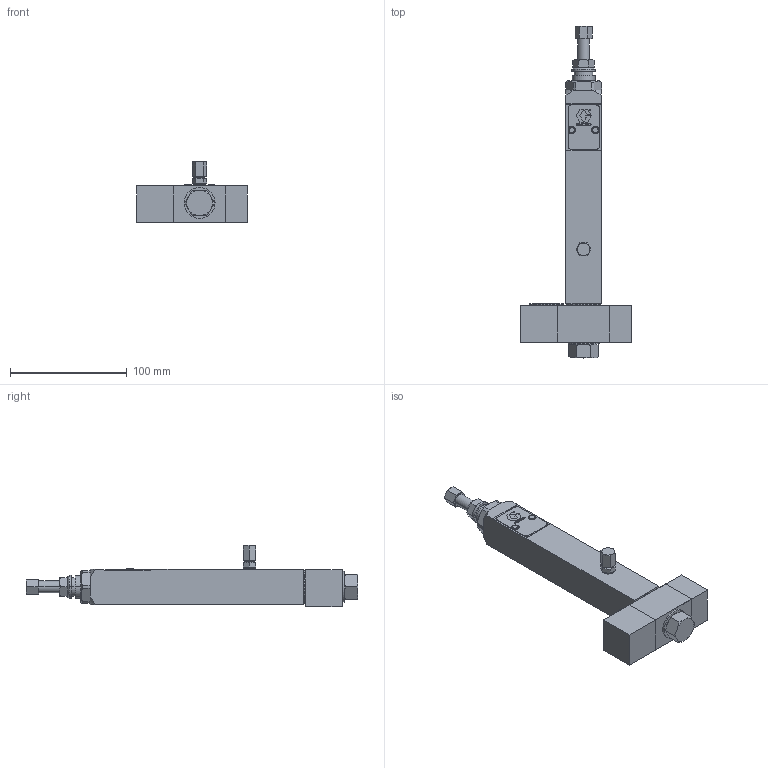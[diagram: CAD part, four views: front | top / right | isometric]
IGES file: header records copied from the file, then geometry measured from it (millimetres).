
Start section:  PTC IGES file: 24x811-en-w.igs
Global section: file name: 24x811-en-w.igs; native system: Creo Parametric by PTC Inc.; preprocessor: 2021072; author: qtmwp1; organization: Unknown; date: 20231218.084051; units: inch
Bounding box: 94.8 x 284.92 x 52.8 mm (x, y, z)
Surface area: 54796.1 mm2 (no closed solid volume)
Topology: 0 solids, 0 shells, 186 faces, 863 edges, 863 vertices
Faces by surface type: bspline 97, revolution 89
